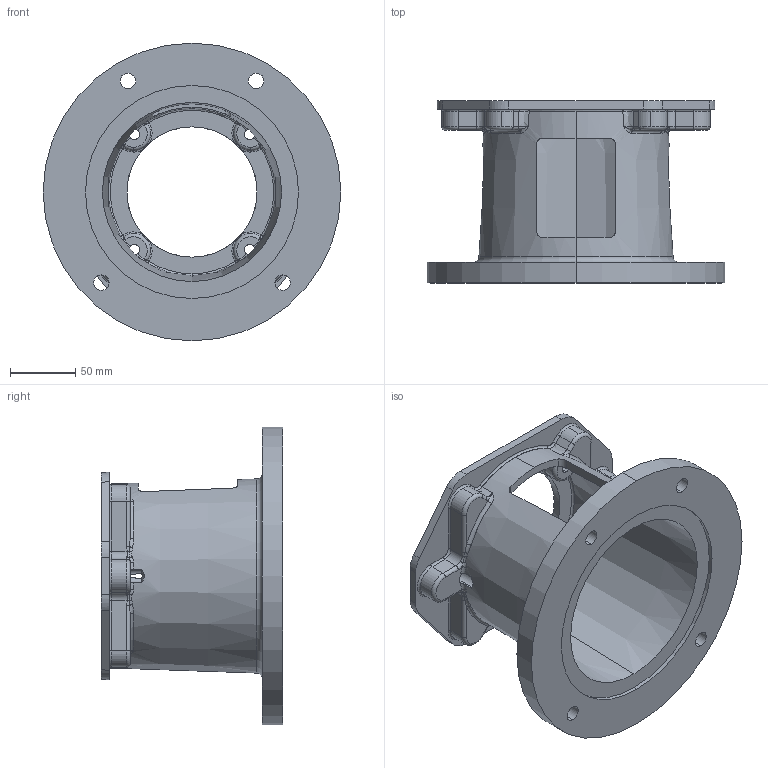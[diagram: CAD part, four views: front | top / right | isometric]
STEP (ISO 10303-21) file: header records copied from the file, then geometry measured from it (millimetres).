
FILE_DESCRIPTION (( 'STEP AP203' ), '1' );
FILE_NAME ('E64455100M.STEP', '2014-11-03T18:43:56', ( '' ), ( '' ), 'SwSTEP 2.0', 'SolidWorks 2014', '' );
FILE_SCHEMA (( 'CONFIG_CONTROL_DESIGN' ));
Length unit declared in the file: inch
Products named in the file (1): E64455100M
Bounding box: 228.6 x 139.7 x 228.6 mm (x, y, z)
Volume: 893185.7 mm3; surface area: 213364.8 mm2
Topology: 1 solids, 1 shells, 294 faces, 778 edges, 455 vertices
Faces by surface type: torus 79, cylinder 74, bspline 64, plane 43, cone 18, sphere 16
Entity records: 11865 total; most frequent: CARTESIAN_POINT 4942, ORIENTED_EDGE 1508, DIRECTION 1438, EDGE_CURVE 754, AXIS2_PLACEMENT_3D 645, VERTEX_POINT 455, CIRCLE 414, EDGE_LOOP 315
